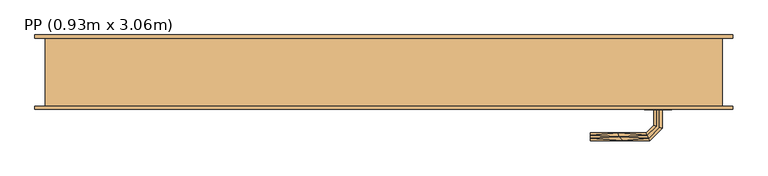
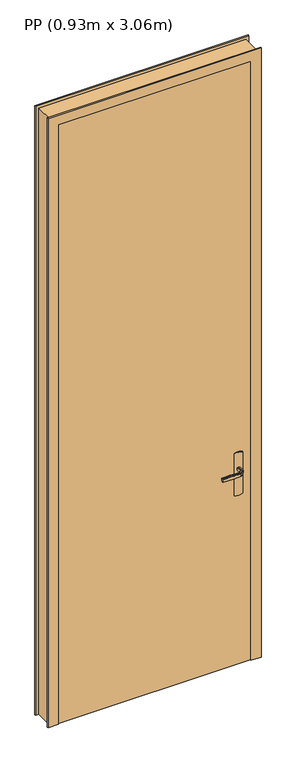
"""IFC4 building model written with IfcOpenShell, lengths in millimetres: door geometry, PP (0.93m x 3.06m)."""

from ifc_helpers import new_model, si_unit, frame, origin, origin_with_axes, place, context, project, spatial, polyline, outline, extrude, faceted_brep, source, transform, mapped, element, save


def pp_0_93m_x_3_06m_ebc7c95f(model_context):
    return source(origin(), model_context, "Body", "SolidModel", [
        faceted_brep([(1070.0, 100.0, 0.0), (1070.0, 0.0, 0.0), (1085.0, 0.0, 0.0), (1085.0, -5.0, 0.0), (1035.0, -5.0, 0.0), (1035.0, 40.0, 0.0), (1020.0, 40.0, 0.0), (1020.0, 105.0, 0.0), (1085.0, 105.0, 0.0), (1085.0, 100.0, 0.0), (1085.0, 100.0, 3110.0), (55.0, 100.0, 3110.0), (55.0, 100.0, 0.0), (70.0, 100.0, 0.0), (70.0, 100.0, 3095.0), (1070.0, 100.0, 3095.0), (1085.0, 105.0, 3110.0), (1020.0, 105.0, 3045.0), (120.0, 105.0, 3045.0), (120.0, 105.0, 0.0), (55.0, 105.0, 0.0), (55.0, 105.0, 3110.0), (1020.0, 40.0, 3045.0), (1035.0, 40.0, 3060.0), (105.0, 40.0, 3060.0), (105.0, 40.0, 0.0), (120.0, 40.0, 0.0), (120.0, 40.0, 3045.0), (1035.0, -5.0, 3060.0), (1085.0, -5.0, 3110.0), (55.0, -5.0, 3110.0), (55.0, -5.0, 0.0), (105.0, -5.0, 0.0), (105.0, -5.0, 3060.0), (1085.0, 0.0, 3110.0), (1070.0, 0.0, 3095.0), (70.0, 0.0, 3095.0), (70.0, 0.0, 0.0), (55.0, 0.0, 0.0), (55.0, 0.0, 3110.0)], [[[0, 1, 2, 3, 4, 5, 6, 7, 8, 9]], [[9, 10, 11, 12, 13, 14, 15, 0]], [[8, 16, 10, 9]], [[7, 17, 18, 19, 20, 21, 16, 8]], [[7, 6, 22, 17]], [[5, 23, 24, 25, 26, 27, 22, 6]], [[5, 4, 28, 23]], [[3, 29, 30, 31, 32, 33, 28, 4]], [[2, 34, 29, 3]], [[1, 35, 36, 37, 38, 39, 34, 2]], [[0, 15, 35, 1]], [[14, 13, 37, 36]], [[13, 12, 20, 19, 26, 25, 32, 31, 38, 37]], [[21, 20, 12, 11]], [[27, 26, 19, 18]], [[33, 32, 25, 24]], [[39, 38, 31, 30]], [[16, 21, 11, 10]], [[22, 27, 18, 17]], [[28, 33, 24, 23]], [[34, 39, 30, 29]], [[15, 14, 36, 35]]]),
        faceted_brep([(972.9747013, -5.0, 1007.7804408), (977.0252987, -5.0, 1007.7804408), (981.0, -5.0, 1007.0), (981.0, -5.0, 993.0), (977.0252987, -5.0, 992.2195592), (972.9747013, -5.0, 992.2195592), (969.0, -5.0, 993.0), (969.0, -5.0, 1007.0), (977.0252987, -31.0045755, 1007.7804408), (981.0, -32.6509507, 1007.0), (972.9747013, -29.3267632, 1007.7804408), (959.2986025, -43.002862, 1007.7804408), (960.9764148, -47.0534593, 1007.7804408), (969.0, -27.680388, 1007.0), (969.0, -27.680388, 993.0), (972.9747013, -29.3267632, 992.2195592), (977.0252987, -31.0045755, 992.2195592), (960.9764148, -47.0534593, 992.2195592), (959.2986025, -43.002862, 992.2195592), (981.0, -32.6509507, 993.0), (962.62279, -51.0281607, 1007.0), (957.6522273, -39.0281607, 1007.0), (957.6522273, -39.0281607, 993.0), (962.62279, -51.0281607, 993.0), (874.9813594, -51.0281607, 1007.0), (874.9813594, -47.0534593, 1007.7804408), (874.9813594, -43.002862, 1007.7804408), (874.9813594, -39.0281607, 1007.0), (874.9813594, -39.0281607, 993.0), (874.9813594, -43.002862, 992.2195592), (874.9813594, -47.0534593, 992.2195592), (874.9813594, -51.0281607, 993.0), (917.1399809, -45.0281607, 1007.8786868), (922.6923028, -51.0281607, 1007.0), (916.3167933, -39.0281607, 1007.0), (916.3167933, -39.0281607, 993.0), (917.1399811, -45.0281608, 992.1213132), (922.6923104, -51.0281607, 993.0)], [[[0, 1, 2, 3, 4, 5, 6, 7]], [[2, 1, 8, 9]], [[1, 0, 10, 11, 12, 8]], [[0, 7, 13, 10]], [[14, 13, 7, 6]], [[5, 15, 14, 6]], [[5, 4, 16, 17, 18, 15]], [[3, 19, 16, 4]], [[9, 19, 3, 2]], [[9, 8, 12, 20]], [[10, 13, 21, 11]], [[22, 21, 13, 14]], [[14, 15, 18, 22]], [[16, 19, 23, 17]], [[20, 23, 19, 9]], [[24, 25, 26, 27, 28, 29, 30, 31]], [[32, 25, 33]], [[33, 25, 24]], [[33, 20, 12]], [[11, 34, 32]], [[34, 11, 21]], [[27, 26, 34]], [[32, 26, 25]], [[32, 34, 26]], [[32, 33, 12]], [[11, 32, 12]], [[21, 22, 35, 28, 27, 34]], [[36, 29, 35]], [[30, 36, 37]], [[18, 35, 22]], [[29, 28, 35]], [[30, 37, 31]], [[37, 17, 23]], [[36, 17, 37]], [[36, 18, 17]], [[36, 35, 18]], [[29, 36, 30]], [[23, 20, 33, 24, 31, 37]]]),
        extrude(outline(polyline([(1035.0, 40.0), (1035.0, 0.0), (105.0, 0.0), (105.0, 40.0), (1035.0, 40.0)])), origin_with_axes(), (0.0, 0.0, 1.0), 3060.0),
        extrude(outline(polyline([(870.0, 995.0), (1080.0, 995.0), (1083.9960169, 985.3527618), (1085.3589838, 975.0), (1083.9960169, 964.6472382), (1080.0, 955.0), (870.0, 955.0), (866.0039831, 964.6472382), (864.6410162, 975.0), (866.0039831, 985.3527618), (870.0, 995.0)])), frame((0.0, 40.0, 0.0), z_axis=(0.0, 1.0, 0.0), x_axis=(0.0, 0.0, 1.0)), (0.0, 0.0, 1.0), 5.0),
        extrude(outline(polyline([(870.0, 995.0), (1080.0, 995.0), (1083.9960169, 985.3527618), (1085.3589838, 975.0), (1083.9960169, 964.6472382), (1080.0, 955.0), (870.0, 955.0), (866.0039831, 964.6472382), (864.6410162, 975.0), (866.0039831, 985.3527618), (870.0, 995.0)])), frame((0.0, -5.0, 0.0), z_axis=(0.0, 1.0, 0.0), x_axis=(0.0, 0.0, 1.0)), (0.0, 0.0, 1.0), 5.0),
        faceted_brep([(972.9747013, 45.0, 992.2195592), (977.0252987, 45.0, 992.2195592), (981.0, 45.0, 993.0), (981.0, 45.0, 1007.0), (977.0252987, 45.0, 1007.7804408), (972.9747013, 45.0, 1007.7804408), (969.0, 45.0, 1007.0), (969.0, 45.0, 993.0), (969.0, 67.4852045, 1007.0), (969.0, 67.4852045, 993.0), (972.9747013, 69.1315797, 1007.7804408), (977.0252987, 70.8093921, 1007.7804408), (960.8389062, 86.9957845, 1007.7804408), (959.1610938, 82.9451872, 1007.7804408), (981.0, 72.4557673, 1007.0), (981.0, 72.4557673, 993.0), (977.0252987, 70.8093921, 992.2195592), (972.9747013, 69.1315797, 992.2195592), (959.1610938, 82.9451872, 992.2195592), (960.8389062, 86.9957845, 992.2195592), (957.5147186, 78.9704859, 1007.0), (957.5147186, 78.9704859, 993.0), (962.4852814, 90.9704859, 1007.0), (962.4852814, 90.9704859, 993.0), (874.9542163, 82.9451872, 1007.7804408), (874.9542163, 86.9957845, 1007.7804408), (874.9542163, 90.9704859, 1007.0), (874.9542163, 90.9704859, 993.0), (874.9542163, 86.9957845, 992.2195592), (874.9542163, 82.9451872, 992.2195592), (874.9542163, 78.9704859, 993.0), (874.9542163, 78.9704859, 1007.0), (916.2344675, 78.9704859, 1007.0), (916.2344794, 78.9704859, 993.0), (917.0576551, 84.9704859, 1007.8786868), (922.5547942, 90.9704859, 1007.0), (922.5547957, 90.9704859, 993.0), (917.0576549, 84.9704858, 992.1213132)], [[[0, 1, 2, 3, 4, 5, 6, 7]], [[8, 9, 7, 6]], [[5, 10, 8, 6]], [[5, 4, 11, 12, 13, 10]], [[3, 14, 11, 4]], [[14, 3, 2, 15]], [[2, 1, 16, 15]], [[1, 0, 17, 18, 19, 16]], [[0, 7, 9, 17]], [[20, 21, 9, 8]], [[8, 10, 13, 20]], [[14, 22, 12, 11]], [[23, 22, 14, 15]], [[15, 16, 19, 23]], [[17, 9, 21, 18]], [[24, 25, 26, 27, 28, 29, 30, 31]], [[21, 20, 32, 31, 30, 33]], [[34, 24, 32]], [[25, 34, 35]], [[13, 32, 20]], [[24, 31, 32]], [[25, 35, 26]], [[35, 12, 22]], [[34, 12, 35]], [[34, 13, 12]], [[34, 32, 13]], [[24, 34, 25]], [[22, 23, 36, 27, 26, 35]], [[37, 28, 36]], [[36, 28, 27]], [[36, 23, 19]], [[18, 33, 37]], [[33, 18, 21]], [[30, 29, 33]], [[37, 29, 28]], [[37, 33, 29]], [[37, 36, 19]], [[18, 37, 19]]]),
    ])


if __name__ == "__main__":
    model = new_model("IFC4")
    model_context = context("Model", 3, world=origin())
    ifc_project = project(units=[si_unit("LENGTHUNIT", "METRE", prefix="MILLI")], contexts=[model_context])
    site = spatial("IfcSite", under=ifc_project)
    building = spatial("IfcBuilding", under=site)
    placement = place(None, origin())
    pp_0_93m_x_3_06m_shape = pp_0_93m_x_3_06m_ebc7c95f(model_context)
    element("IfcDoor", 1, ObjectType="PP (0.93m x 3.06m)", at=placement, inside=building, context=model_context, shape_type="MappedRepresentation", body=[
        mapped(pp_0_93m_x_3_06m_shape, transform((0.0, 0.0, 0.0), x_axis=(1.0, 0.0, 0.0), y_axis=(0.0, 1.0, 0.0), z_axis=(0.0, 0.0, 1.0))),
    ])
    save(model, "model.ifc")
